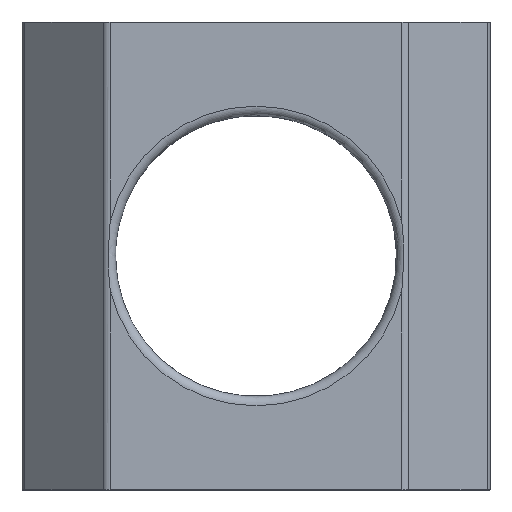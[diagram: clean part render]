
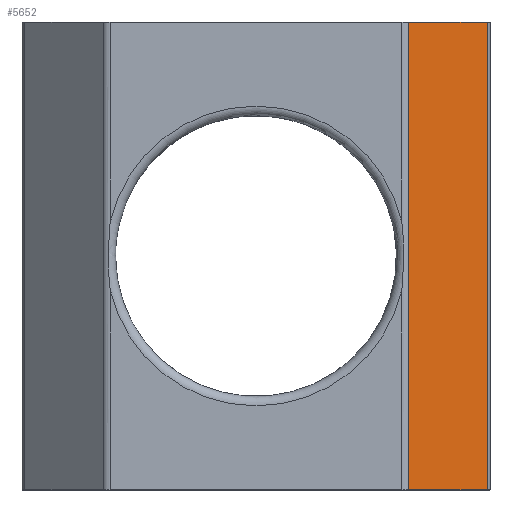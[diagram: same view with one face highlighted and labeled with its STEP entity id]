
A CAD part, front view. The second image highlights one B-rep face of the part: STEP entity #5652.
In plain terms, the highlighted planar face has unit normal (0.707, -0.707, 0).
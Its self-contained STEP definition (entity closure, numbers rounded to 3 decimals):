
#327 = CYLINDRICAL_SURFACE('',#328,0.2);
#328 = AXIS2_PLACEMENT_3D('',#329,#330,#331);
#329 = CARTESIAN_POINT('',(3.117,-2.35,0.));
#330 = DIRECTION('',(0.,0.,-1.));
#331 = DIRECTION('',(0.383,-0.924,0.));
#5044 = VERTEX_POINT('',#5045);
#5045 = CARTESIAN_POINT('',(3.259,-2.491,-4.99));
#5060 = CYLINDRICAL_SURFACE('',#5061,0.01);
#5061 = AXIS2_PLACEMENT_3D('',#5062,#5063,#5064);
#5062 = CARTESIAN_POINT('',(2.946,-2.79,-4.99));
#5063 = DIRECTION('',(-0.707,-0.707,0.));
#5064 = DIRECTION('',(0.5,-0.5,-0.707));
#5123 = VERTEX_POINT('',#5124);
#5124 = CARTESIAN_POINT('',(4.941,-0.809,-4.99));
#5151 = EDGE_CURVE('',#5123,#5044,#5152,.T.);
#5152 = SURFACE_CURVE('',#5153,(#5157,#5164),.PCURVE_S1.);
#5153 = LINE('',#5154,#5155);
#5154 = CARTESIAN_POINT('',(2.953,-2.797,-4.99));
#5155 = VECTOR('',#5156,1.);
#5156 = DIRECTION('',(-0.707,-0.707,0.));
#5157 = PCURVE('',#5060,#5158);
#5158 = DEFINITIONAL_REPRESENTATION('',(#5159),#5163);
#5159 = LINE('',#5160,#5161);
#5160 = CARTESIAN_POINT('',(7.069,0.));
#5161 = VECTOR('',#5162,1.);
#5162 = DIRECTION('',(0.,1.));
#5163 = ( GEOMETRIC_REPRESENTATION_CONTEXT(2) 
PARAMETRIC_REPRESENTATION_CONTEXT() REPRESENTATION_CONTEXT('2D SPACE',''
  ) );
#5164 = PCURVE('',#5165,#5170);
#5165 = PLANE('',#5166);
#5166 = AXIS2_PLACEMENT_3D('',#5167,#5168,#5169);
#5167 = CARTESIAN_POINT('',(3.2,-2.55,0.));
#5168 = DIRECTION('',(0.707,-0.707,0.));
#5169 = DIRECTION('',(0.707,0.707,0.));
#5170 = DEFINITIONAL_REPRESENTATION('',(#5171),#5175);
#5171 = LINE('',#5172,#5173);
#5172 = CARTESIAN_POINT('',(-0.349,-4.99));
#5173 = VECTOR('',#5174,1.);
#5174 = DIRECTION('',(-1.,0.));
#5175 = ( GEOMETRIC_REPRESENTATION_CONTEXT(2) 
PARAMETRIC_REPRESENTATION_CONTEXT() REPRESENTATION_CONTEXT('2D SPACE',''
  ) );
#5248 = CYLINDRICAL_SURFACE('',#5249,0.2);
#5249 = AXIS2_PLACEMENT_3D('',#5250,#5251,#5252);
#5250 = CARTESIAN_POINT('',(4.8,-0.667,0.));
#5251 = DIRECTION('',(0.,0.,-1.));
#5252 = DIRECTION('',(0.924,-0.383,0.));
#5602 = EDGE_CURVE('',#5044,#5603,#5605,.T.);
#5603 = VERTEX_POINT('',#5604);
#5604 = CARTESIAN_POINT('',(3.259,-2.491,4.99));
#5605 = SURFACE_CURVE('',#5606,(#5610,#5617),.PCURVE_S1.);
#5606 = LINE('',#5607,#5608);
#5607 = CARTESIAN_POINT('',(3.259,-2.491,0.));
#5608 = VECTOR('',#5609,1.);
#5609 = DIRECTION('',(0.,0.,1.));
#5610 = PCURVE('',#327,#5611);
#5611 = DEFINITIONAL_REPRESENTATION('',(#5612),#5616);
#5612 = LINE('',#5613,#5614);
#5613 = CARTESIAN_POINT('',(-0.393,0.));
#5614 = VECTOR('',#5615,1.);
#5615 = DIRECTION('',(0.,-1.));
#5616 = ( GEOMETRIC_REPRESENTATION_CONTEXT(2) 
PARAMETRIC_REPRESENTATION_CONTEXT() REPRESENTATION_CONTEXT('2D SPACE',''
  ) );
#5617 = PCURVE('',#5165,#5618);
#5618 = DEFINITIONAL_REPRESENTATION('',(#5619),#5623);
#5619 = LINE('',#5620,#5621);
#5620 = CARTESIAN_POINT('',(0.083,0.));
#5621 = VECTOR('',#5622,1.);
#5622 = DIRECTION('',(0.,1.));
#5623 = ( GEOMETRIC_REPRESENTATION_CONTEXT(2) 
PARAMETRIC_REPRESENTATION_CONTEXT() REPRESENTATION_CONTEXT('2D SPACE',''
  ) );
#5652 = ADVANCED_FACE('',(#5653),#5165,.T.);
#5653 = FACE_BOUND('',#5654,.T.);
#5654 = EDGE_LOOP('',(#5655,#5656,#5679,#5705));
#5655 = ORIENTED_EDGE('',*,*,#5151,.F.);
#5656 = ORIENTED_EDGE('',*,*,#5657,.F.);
#5657 = EDGE_CURVE('',#5658,#5123,#5660,.T.);
#5658 = VERTEX_POINT('',#5659);
#5659 = CARTESIAN_POINT('',(4.941,-0.809,4.99));
#5660 = SURFACE_CURVE('',#5661,(#5665,#5672),.PCURVE_S1.);
#5661 = LINE('',#5662,#5663);
#5662 = CARTESIAN_POINT('',(4.941,-0.809,0.));
#5663 = VECTOR('',#5664,1.);
#5664 = DIRECTION('',(0.,0.,-1.));
#5665 = PCURVE('',#5165,#5666);
#5666 = DEFINITIONAL_REPRESENTATION('',(#5667),#5671);
#5667 = LINE('',#5668,#5669);
#5668 = CARTESIAN_POINT('',(2.463,0.));
#5669 = VECTOR('',#5670,1.);
#5670 = DIRECTION('',(0.,-1.));
#5671 = ( GEOMETRIC_REPRESENTATION_CONTEXT(2) 
PARAMETRIC_REPRESENTATION_CONTEXT() REPRESENTATION_CONTEXT('2D SPACE',''
  ) );
#5672 = PCURVE('',#5248,#5673);
#5673 = DEFINITIONAL_REPRESENTATION('',(#5674),#5678);
#5674 = LINE('',#5675,#5676);
#5675 = CARTESIAN_POINT('',(6.676,0.));
#5676 = VECTOR('',#5677,1.);
#5677 = DIRECTION('',(0.,1.));
#5678 = ( GEOMETRIC_REPRESENTATION_CONTEXT(2) 
PARAMETRIC_REPRESENTATION_CONTEXT() REPRESENTATION_CONTEXT('2D SPACE',''
  ) );
#5679 = ORIENTED_EDGE('',*,*,#5680,.F.);
#5680 = EDGE_CURVE('',#5603,#5658,#5681,.T.);
#5681 = SURFACE_CURVE('',#5682,(#5686,#5693),.PCURVE_S1.);
#5682 = LINE('',#5683,#5684);
#5683 = CARTESIAN_POINT('',(2.953,-2.797,4.99));
#5684 = VECTOR('',#5685,1.);
#5685 = DIRECTION('',(0.707,0.707,0.));
#5686 = PCURVE('',#5165,#5687);
#5687 = DEFINITIONAL_REPRESENTATION('',(#5688),#5692);
#5688 = LINE('',#5689,#5690);
#5689 = CARTESIAN_POINT('',(-0.349,4.99));
#5690 = VECTOR('',#5691,1.);
#5691 = DIRECTION('',(1.,0.));
#5692 = ( GEOMETRIC_REPRESENTATION_CONTEXT(2) 
PARAMETRIC_REPRESENTATION_CONTEXT() REPRESENTATION_CONTEXT('2D SPACE',''
  ) );
#5693 = PCURVE('',#5694,#5699);
#5694 = CYLINDRICAL_SURFACE('',#5695,0.01);
#5695 = AXIS2_PLACEMENT_3D('',#5696,#5697,#5698);
#5696 = CARTESIAN_POINT('',(2.946,-2.79,4.99));
#5697 = DIRECTION('',(0.707,0.707,0.));
#5698 = DIRECTION('',(0.5,-0.5,0.707));
#5699 = DEFINITIONAL_REPRESENTATION('',(#5700),#5704);
#5700 = LINE('',#5701,#5702);
#5701 = CARTESIAN_POINT('',(7.069,0.));
#5702 = VECTOR('',#5703,1.);
#5703 = DIRECTION('',(0.,1.));
#5704 = ( GEOMETRIC_REPRESENTATION_CONTEXT(2) 
PARAMETRIC_REPRESENTATION_CONTEXT() REPRESENTATION_CONTEXT('2D SPACE',''
  ) );
#5705 = ORIENTED_EDGE('',*,*,#5602,.F.);
